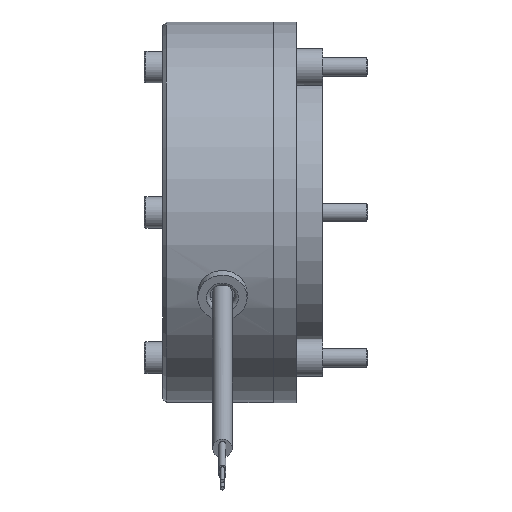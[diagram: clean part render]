
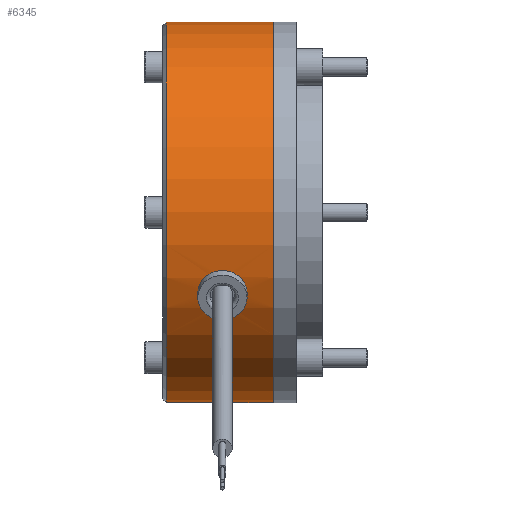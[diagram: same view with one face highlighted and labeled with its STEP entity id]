
A CAD part, front view. The second image highlights one B-rep face of the part: STEP entity #6345.
In plain terms, the highlighted cylindrical face has radius 51 mm (diameter 102 mm), a full revolution.
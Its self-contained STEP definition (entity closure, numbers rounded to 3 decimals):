
#148=B_SPLINE_CURVE_WITH_KNOTS('',3,(#10068,#10069,#10070,#10071,#10072,
#10073,#10074,#10075,#10076,#10077,#10078,#10079,#10080,#10081,#10082,#10083,
#10084,#10085,#10086),.UNSPECIFIED.,.F.,.F.,(4,2,2,2,3,2,2,2,4),(2.301,
2.492,2.684,2.876,3.067,3.259,
3.451,3.643,3.834),.UNSPECIFIED.);
#149=B_SPLINE_CURVE_WITH_KNOTS('',3,(#10089,#10090,#10091,#10092,#10093,
#10094,#10095,#10096,#10097,#10098,#10099,#10100,#10101,#10102,#10103,#10104,
#10105,#10106),.UNSPECIFIED.,.F.,.F.,(4,2,2,2,2,2,2,2,4),(0.767,
0.959,1.151,1.342,1.534,1.725,
1.916,2.108,2.301),.UNSPECIFIED.);
#374=CYLINDRICAL_SURFACE('',#6894,51.);
#529=FACE_BOUND('',#1485,.T.);
#705=CIRCLE('',#6796,51.);
#706=CIRCLE('',#6797,51.);
#762=CIRCLE('',#6895,51.);
#763=CIRCLE('',#6896,51.);
#1130=FACE_OUTER_BOUND('',#1484,.T.);
#1484=EDGE_LOOP('',(#4885,#4886,#4887,#4888,#4889,#4890));
#1485=EDGE_LOOP('',(#4891,#4892,#4893,#4894,#4895,#4896));
#1875=LINE('',#10488,#2188);
#1876=LINE('',#10492,#2189);
#1877=LINE('',#10493,#2190);
#2188=VECTOR('',#8162,51.);
#2189=VECTOR('',#8167,10.);
#2190=VECTOR('',#8168,10.);
#2557=VERTEX_POINT('',#10066);
#2558=VERTEX_POINT('',#10067);
#2559=VERTEX_POINT('',#10109);
#2560=VERTEX_POINT('',#10111);
#2595=VERTEX_POINT('',#10227);
#2596=VERTEX_POINT('',#10228);
#2676=VERTEX_POINT('',#10487);
#2677=VERTEX_POINT('',#10489);
#3308=EDGE_CURVE('',#2557,#2558,#148,.T.);
#3310=EDGE_CURVE('',#2558,#2557,#149,.T.);
#3361=EDGE_CURVE('',#2595,#2596,#705,.T.);
#3362=EDGE_CURVE('',#2596,#2595,#706,.T.);
#3470=EDGE_CURVE('',#2596,#2676,#1875,.T.);
#3471=EDGE_CURVE('',#2677,#2676,#762,.T.);
#3472=EDGE_CURVE('',#2676,#2677,#763,.T.);
#3473=EDGE_CURVE('',#2557,#2559,#1876,.T.);
#3474=EDGE_CURVE('',#2558,#2560,#1877,.T.);
#4885=ORIENTED_EDGE('',*,*,#3361,.F.);
#4886=ORIENTED_EDGE('',*,*,#3362,.F.);
#4887=ORIENTED_EDGE('',*,*,#3470,.T.);
#4888=ORIENTED_EDGE('',*,*,#3471,.F.);
#4889=ORIENTED_EDGE('',*,*,#3472,.F.);
#4890=ORIENTED_EDGE('',*,*,#3470,.F.);
#4891=ORIENTED_EDGE('',*,*,#3473,.T.);
#4892=ORIENTED_EDGE('',*,*,#3473,.F.);
#4893=ORIENTED_EDGE('',*,*,#3308,.T.);
#4894=ORIENTED_EDGE('',*,*,#3474,.T.);
#4895=ORIENTED_EDGE('',*,*,#3474,.F.);
#4896=ORIENTED_EDGE('',*,*,#3310,.T.);
#6345=ADVANCED_FACE('',(#1130,#529),#374,.T.);
#6796=AXIS2_PLACEMENT_3D('',#10229,#7926,#7927);
#6797=AXIS2_PLACEMENT_3D('',#10230,#7928,#7929);
#6894=AXIS2_PLACEMENT_3D('',#10486,#8160,#8161);
#6895=AXIS2_PLACEMENT_3D('',#10490,#8163,#8164);
#6896=AXIS2_PLACEMENT_3D('',#10491,#8165,#8166);
#7926=DIRECTION('center_axis',(1.,0.,0.));
#7927=DIRECTION('ref_axis',(0.,1.,0.));
#7928=DIRECTION('center_axis',(1.,0.,0.));
#7929=DIRECTION('ref_axis',(0.,1.,0.));
#8160=DIRECTION('center_axis',(1.,0.,0.));
#8161=DIRECTION('ref_axis',(0.,1.,0.));
#8162=DIRECTION('',(-1.,0.,0.));
#8163=DIRECTION('center_axis',(-1.,0.,0.));
#8164=DIRECTION('ref_axis',(0.,-1.,0.));
#8165=DIRECTION('center_axis',(-1.,0.,0.));
#8166=DIRECTION('ref_axis',(0.,-1.,0.));
#8167=DIRECTION('',(-1.,0.,0.));
#8168=DIRECTION('',(1.,0.,0.));
#10066=CARTESIAN_POINT('',(-18.7,-46.222,-21.554));
#10067=CARTESIAN_POINT('',(-8.5,-46.222,-21.554));
#10068=CARTESIAN_POINT('Ctrl Pts',(-18.7,-46.222,
-21.554));
#10069=CARTESIAN_POINT('Ctrl Pts',(-18.7,-46.492,
-20.974));
#10070=CARTESIAN_POINT('Ctrl Pts',(-18.571,-46.768,
-20.351));
#10071=CARTESIAN_POINT('Ctrl Pts',(-18.048,-47.254,
-19.196));
#10072=CARTESIAN_POINT('Ctrl Pts',(-17.654,-47.464,
-18.665));
#10073=CARTESIAN_POINT('Ctrl Pts',(-16.747,-47.786,
-17.824));
#10074=CARTESIAN_POINT('Ctrl Pts',(-16.174,-47.92,-17.457));
#10075=CARTESIAN_POINT('Ctrl Pts',(-14.92,-48.094,-16.97));
#10076=CARTESIAN_POINT('Ctrl Pts',(-14.239,-48.136,
-16.85));
#10077=CARTESIAN_POINT('Ctrl Pts',(-13.6,-48.136,
-16.85));
#10078=CARTESIAN_POINT('Ctrl Pts',(-12.961,-48.136,
-16.85));
#10079=CARTESIAN_POINT('Ctrl Pts',(-12.28,-48.094,
-16.97));
#10080=CARTESIAN_POINT('Ctrl Pts',(-11.026,-47.92,
-17.457));
#10081=CARTESIAN_POINT('Ctrl Pts',(-10.453,-47.786,-17.824));
#10082=CARTESIAN_POINT('Ctrl Pts',(-9.546,-47.464,
-18.665));
#10083=CARTESIAN_POINT('Ctrl Pts',(-9.152,-47.254,
-19.196));
#10084=CARTESIAN_POINT('Ctrl Pts',(-8.629,-46.768,
-20.351));
#10085=CARTESIAN_POINT('Ctrl Pts',(-8.5,-46.492,
-20.974));
#10086=CARTESIAN_POINT('Ctrl Pts',(-8.5,-46.222,
-21.554));
#10089=CARTESIAN_POINT('Ctrl Pts',(-8.5,-46.222,
-21.554));
#10090=CARTESIAN_POINT('Ctrl Pts',(-8.5,-45.951,
-22.133));
#10091=CARTESIAN_POINT('Ctrl Pts',(-8.629,-45.651,
-22.745));
#10092=CARTESIAN_POINT('Ctrl Pts',(-9.152,-45.079,
-23.859));
#10093=CARTESIAN_POINT('Ctrl Pts',(-9.546,-44.807,
-24.362));
#10094=CARTESIAN_POINT('Ctrl Pts',(-10.453,-44.37,-25.149));
#10095=CARTESIAN_POINT('Ctrl Pts',(-11.026,-44.175,
-25.487));
#10096=CARTESIAN_POINT('Ctrl Pts',(-12.28,-43.914,
-25.934));
#10097=CARTESIAN_POINT('Ctrl Pts',(-12.961,-43.849,
-26.043));
#10098=CARTESIAN_POINT('Ctrl Pts',(-14.238,-43.849,
-26.043));
#10099=CARTESIAN_POINT('Ctrl Pts',(-14.918,-43.914,
-25.935));
#10100=CARTESIAN_POINT('Ctrl Pts',(-16.171,-44.174,-25.489));
#10101=CARTESIAN_POINT('Ctrl Pts',(-16.743,-44.369,-25.152));
#10102=CARTESIAN_POINT('Ctrl Pts',(-17.651,-44.806,
-24.365));
#10103=CARTESIAN_POINT('Ctrl Pts',(-18.046,-45.078,
-23.862));
#10104=CARTESIAN_POINT('Ctrl Pts',(-18.571,-45.651,
-22.747));
#10105=CARTESIAN_POINT('Ctrl Pts',(-18.7,-45.951,
-22.134));
#10106=CARTESIAN_POINT('Ctrl Pts',(-18.7,-46.222,
-21.554));
#10109=CARTESIAN_POINT('',(-20.2,-46.222,-21.554));
#10111=CARTESIAN_POINT('',(-7.,-46.222,-21.554));
#10227=CARTESIAN_POINT('',(0.,0.,
51.));
#10228=CARTESIAN_POINT('',(0.,-51.,0.));
#10229=CARTESIAN_POINT('Origin',(0.,0.,
0.));
#10230=CARTESIAN_POINT('Origin',(0.,0.,
0.));
#10486=CARTESIAN_POINT('Origin',(-14.8,0.,0.));
#10487=CARTESIAN_POINT('',(-28.6,-51.,0.));
#10488=CARTESIAN_POINT('',(-14.8,-51.,0.));
#10489=CARTESIAN_POINT('',(-28.6,51.,0.));
#10490=CARTESIAN_POINT('Origin',(-28.6,0.,0.));
#10491=CARTESIAN_POINT('Origin',(-28.6,0.,0.));
#10492=CARTESIAN_POINT('',(0.,-46.222,-21.554));
#10493=CARTESIAN_POINT('',(-14.8,-46.222,-21.554));
